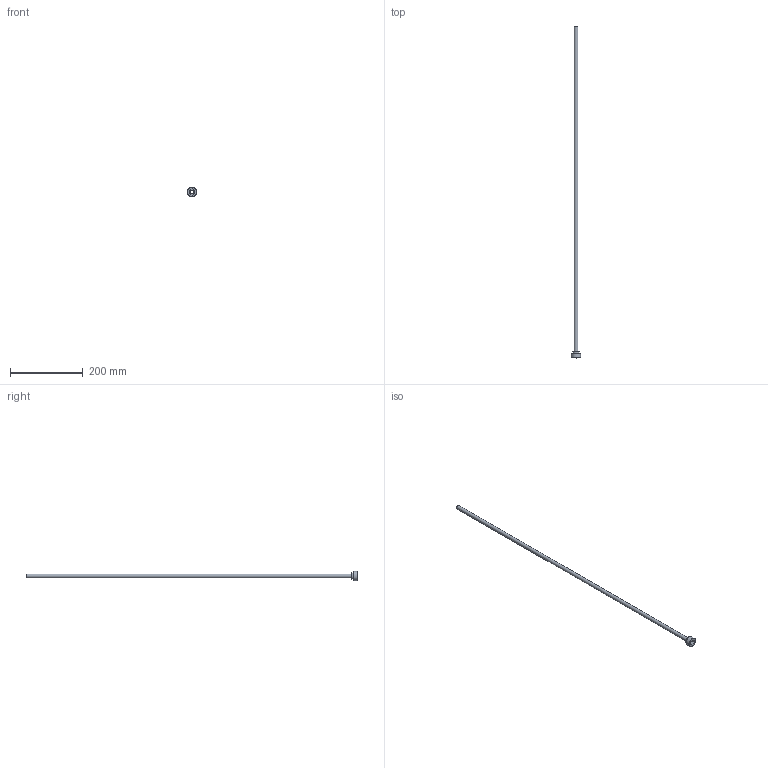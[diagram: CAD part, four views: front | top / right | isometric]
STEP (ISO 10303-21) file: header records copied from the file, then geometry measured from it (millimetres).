
FILE_DESCRIPTION(/* description */ (''),/* implementation_level */ '2;1');
FILE_NAME(/* name */ 'C:/Users/drich/Desktop/PT34-437-36 v1.step',/* time_stamp */ '2019-12-27T15:47:35-06:00',/* author */ (''),/* organization */ (''),/* preprocessor_version */ 'ST-DEVELOPER v18',/* originating_system */ 'Autodesk Translation Framework v8.12.0.6',/* authorisation */ '');
FILE_SCHEMA (('AUTOMOTIVE_DESIGN { 1 0 10303 214 3 1 1 }'));
Length unit declared in the file: inch
Products named in the file (1): PT34-437-36
Bounding box: 26.3 x 914.4 x 26.3 mm (x, y, z)
Volume: 16485.1 mm3; surface area: 61823.7 mm2
Topology: 1 solids, 1 shells, 19 faces, 48 edges, 34 vertices
Faces by surface type: plane 11, cylinder 4, torus 2, cone 2
Full cylindrical faces by diameter (mm): 10.084 x1, 10.82 x1, 19.05 x1, 26.299 x1
Entity records: 633 total; most frequent: DIRECTION 112, CARTESIAN_POINT 102, ORIENTED_EDGE 96, EDGE_CURVE 48, AXIS2_PLACEMENT_3D 44, VERTEX_POINT 34, CIRCLE 24, EDGE_LOOP 24
